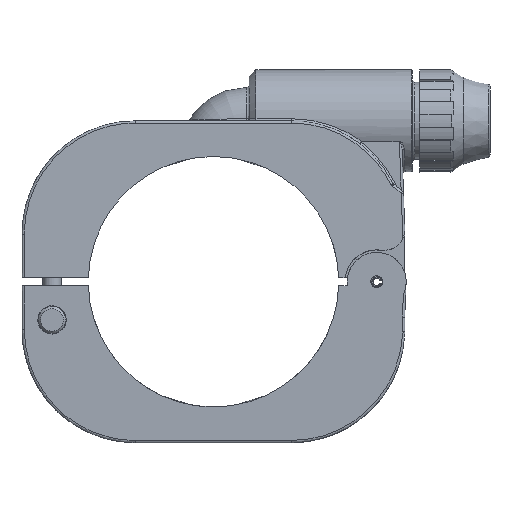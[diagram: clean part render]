
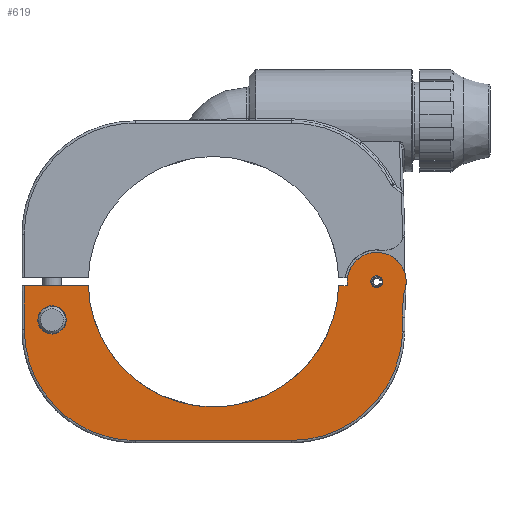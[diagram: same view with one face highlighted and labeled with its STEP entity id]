
A CAD part, left-side view. The second image highlights one B-rep face of the part: STEP entity #619.
In plain terms, the highlighted planar face has unit normal (-1, 0, -0.018).
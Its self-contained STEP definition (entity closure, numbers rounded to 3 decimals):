
#619 = ADVANCED_FACE( '', ( #1395, #1396, #1397 ), #1398, .T. );
#1395 = FACE_BOUND( '', #4152, .T. );
#1396 = FACE_OUTER_BOUND( '', #4153, .T. );
#1397 = FACE_BOUND( '', #4154, .T. );
#1398 = PLANE( '', #4155 );
#4152 = EDGE_LOOP( '', ( #8540 ) );
#4153 = EDGE_LOOP( '', ( #8541, #8542, #8543, #8544, #8545, #8546, #8547, #8548, #8549, #8550, #8551, #8552 ) );
#4154 = EDGE_LOOP( '', ( #8553 ) );
#4155 = AXIS2_PLACEMENT_3D( '', #8554, #8555, #8556 );
#8540 = ORIENTED_EDGE( '', *, *, #10552, .T. );
#8541 = ORIENTED_EDGE( '', *, *, #10553, .T. );
#8542 = ORIENTED_EDGE( '', *, *, #10141, .F. );
#8543 = ORIENTED_EDGE( '', *, *, #10182, .F. );
#8544 = ORIENTED_EDGE( '', *, *, #10554, .T. );
#8545 = ORIENTED_EDGE( '', *, *, #10507, .T. );
#8546 = ORIENTED_EDGE( '', *, *, #10194, .T. );
#8547 = ORIENTED_EDGE( '', *, *, #10555, .T. );
#8548 = ORIENTED_EDGE( '', *, *, #10395, .T. );
#8549 = ORIENTED_EDGE( '', *, *, #10556, .T. );
#8550 = ORIENTED_EDGE( '', *, *, #10557, .T. );
#8551 = ORIENTED_EDGE( '', *, *, #10558, .T. );
#8552 = ORIENTED_EDGE( '', *, *, #10559, .T. );
#8553 = ORIENTED_EDGE( '', *, *, #10345, .T. );
#8554 = CARTESIAN_POINT( '', ( -31.5, 0., 71. ) );
#8555 = DIRECTION( '', ( -1., 0., -0.017 ) );
#8556 = DIRECTION( '', ( -0.017, 0., 1. ) );
#10141 = EDGE_CURVE( '', #11241, #11244, #11245, .F. );
#10182 = EDGE_CURVE( '', #11310, #11241, #11313, .T. );
#10194 = EDGE_CURVE( '', #11332, #11330, #11333, .F. );
#10345 = EDGE_CURVE( '', #11585, #11585, #11586, .F. );
#10395 = EDGE_CURVE( '', #11655, #11659, #11661, .T. );
#10507 = EDGE_CURVE( '', #11826, #11332, #11827, .T. );
#10552 = EDGE_CURVE( '', #11890, #11890, #11891, .F. );
#10553 = EDGE_CURVE( '', #11892, #11244, #11893, .T. );
#10554 = EDGE_CURVE( '', #11310, #11826, #11894, .F. );
#10555 = EDGE_CURVE( '', #11330, #11655, #11895, .T. );
#10556 = EDGE_CURVE( '', #11659, #11896, #11897, .T. );
#10557 = EDGE_CURVE( '', #11896, #11898, #11899, .T. );
#10558 = EDGE_CURVE( '', #11898, #11900, #11901, .T. );
#10559 = EDGE_CURVE( '', #11900, #11892, #11902, .T. );
#11241 = VERTEX_POINT( '', #12932 );
#11244 = VERTEX_POINT( '', #12936 );
#11245 = ELLIPSE( '', #12937, 13.002, 13. );
#11310 = VERTEX_POINT( '', #13124 );
#11313 = LINE( '', #13128, #13129 );
#11330 = VERTEX_POINT( '', #13149 );
#11332 = VERTEX_POINT( '', #13152 );
#11333 = ELLIPSE( '', #13153, 55.258, 55.25 );
#11585 = VERTEX_POINT( '', #14295 );
#11586 = ELLIPSE( '', #14296, 6.251, 6.25 );
#11655 = VERTEX_POINT( '', #14437 );
#11659 = VERTEX_POINT( '', #14442 );
#11661 = LINE( '', #14444, #14445 );
#11826 = VERTEX_POINT( '', #15100 );
#11827 = LINE( '', #15101, #15102 );
#11890 = VERTEX_POINT( '', #15269 );
#11891 = ELLIPSE( '', #15270, 2.65, 2.65 );
#11892 = VERTEX_POINT( '', #15271 );
#11893 = LINE( '', #15272, #15273 );
#11894 = ( BOUNDED_CURVE(  )B_SPLINE_CURVE( 3, ( #15276, #15277, #15278, #15279 ), .UNSPECIFIED., .F., .F. )B_SPLINE_CURVE_WITH_KNOTS( ( 4, 4 ), ( 0.677, 0.677 ), .UNSPECIFIED. )CURVE(  )GEOMETRIC_REPRESENTATION_ITEM(  )RATIONAL_B_SPLINE_CURVE( ( 0.631, 0.631, 0.631, 0.631 ) )REPRESENTATION_ITEM( '' ) );
#11895 = LINE( '', #15285, #15286 );
#11896 = VERTEX_POINT( '', #15287 );
#11897 = ELLIPSE( '', #15288, 49.007, 49. );
#11898 = VERTEX_POINT( '', #15289 );
#11899 = LINE( '', #15290, #15291 );
#11900 = VERTEX_POINT( '', #15292 );
#11901 = ELLIPSE( '', #15293, 49.007, 49. );
#11902 = LINE( '', #15294, #15295 );
#12932 = CARTESIAN_POINT( '', ( -31.469, -59.133, 69.243 ) );
#12936 = CARTESIAN_POINT( '', ( -31.402, -83.757, 65.392 ) );
#12937 = AXIS2_PLACEMENT_3D( '', #17318, #17319, #17320 );
#13124 = CARTESIAN_POINT( '', ( -31.469, -57.584, 69.243 ) );
#13128 = CARTESIAN_POINT( '', ( -31.469, -58.969, 69.243 ) );
#13129 = VECTOR( '', #17368, 1000. );
#13149 = CARTESIAN_POINT( '', ( -31.469, 55.222, 69.243 ) );
#13152 = CARTESIAN_POINT( '', ( -31.469, -55.222, 69.243 ) );
#13153 = AXIS2_PLACEMENT_3D( '', #17385, #17386, #17387 );
#14295 = CARTESIAN_POINT( '', ( -31.097, 71.228, 47.929 ) );
#14296 = AXIS2_PLACEMENT_3D( '', #17597, #17598, #17599 );
#14437 = CARTESIAN_POINT( '', ( -31.469, 83.478, 69.243 ) );
#14442 = CARTESIAN_POINT( '', ( -31.133, 83.478, 49.983 ) );
#14444 = CARTESIAN_POINT( '', ( -31.133, 83.478, 50. ) );
#14445 = VECTOR( '', #17660, 1000. );
#15100 = CARTESIAN_POINT( '', ( -31.469, -57.584, 69.243 ) );
#15101 = CARTESIAN_POINT( '', ( -31.469, -84.385, 69.243 ) );
#15102 = VECTOR( '', #17762, 1000. );
#15269 = CARTESIAN_POINT( '', ( -31.546, -72.017, 73.624 ) );
#15270 = AXIS2_PLACEMENT_3D( '', #17806, #17807, #17808 );
#15271 = CARTESIAN_POINT( '', ( -31.228, -83.385, 55.433 ) );
#15272 = CARTESIAN_POINT( '', ( -31.47, -83.902, 69.28 ) );
#15273 = VECTOR( '', #17809, 1000. );
#15276 = CARTESIAN_POINT( '', ( -31.469, -57.584, 69.243 ) );
#15277 = CARTESIAN_POINT( '', ( -31.469, -57.584, 69.243 ) );
#15278 = CARTESIAN_POINT( '', ( -31.469, -57.584, 69.243 ) );
#15279 = CARTESIAN_POINT( '', ( -31.469, -57.584, 69.243 ) );
#15285 = CARTESIAN_POINT( '', ( -31.469, 44.743, 69.243 ) );
#15286 = VECTOR( '', #17810, 1000. );
#15287 = CARTESIAN_POINT( '', ( -30.278, 34.478, 0.983 ) );
#15288 = AXIS2_PLACEMENT_3D( '', #17811, #17812, #17813 );
#15289 = CARTESIAN_POINT( '', ( -30.278, -34.399, 0.983 ) );
#15290 = CARTESIAN_POINT( '', ( -30.278, -34.399, 0.983 ) );
#15291 = VECTOR( '', #17814, 1000. );
#15292 = CARTESIAN_POINT( '', ( -31.113, -83.385, 48.836 ) );
#15293 = AXIS2_PLACEMENT_3D( '', #17815, #17816, #17817 );
#15294 = CARTESIAN_POINT( '', ( -31.228, -83.385, 55.432 ) );
#15295 = VECTOR( '', #17818, 1000. );
#17318 = CARTESIAN_POINT( '', ( -31.5, -72.017, 70.974 ) );
#17319 = DIRECTION( '', ( -1., 0., -0.017 ) );
#17320 = DIRECTION( '', ( 0.017, 0., -1. ) );
#17368 = DIRECTION( '', ( 0., -1., 0. ) );
#17385 = CARTESIAN_POINT( '', ( -31.5, 0., 71. ) );
#17386 = DIRECTION( '', ( -1., 0., -0.017 ) );
#17387 = DIRECTION( '', ( -0.017, 0., 1. ) );
#17597 = CARTESIAN_POINT( '', ( -31.206, 71.228, 54.179 ) );
#17598 = DIRECTION( '', ( -1., 0., -0.017 ) );
#17599 = DIRECTION( '', ( 0.017, 0., -1. ) );
#17660 = DIRECTION( '', ( 0.017, 0., -1. ) );
#17762 = DIRECTION( '', ( 0., 1., 0. ) );
#17806 = CARTESIAN_POINT( '', ( -31.5, -72.017, 70.974 ) );
#17807 = DIRECTION( '', ( -1., 0., -0.017 ) );
#17808 = DIRECTION( '', ( -0.017, 0., 1. ) );
#17809 = DIRECTION( '', ( -0.017, -0.037, 0.999 ) );
#17810 = DIRECTION( '', ( 0., 1., 0. ) );
#17811 = CARTESIAN_POINT( '', ( -31.133, 34.478, 49.983 ) );
#17812 = DIRECTION( '', ( -1., 0., -0.017 ) );
#17813 = DIRECTION( '', ( -0.017, 0., 1. ) );
#17814 = DIRECTION( '', ( 0., -1., 0. ) );
#17815 = CARTESIAN_POINT( '', ( -31.133, -34.399, 49.983 ) );
#17816 = DIRECTION( '', ( -1., 0., -0.017 ) );
#17817 = DIRECTION( '', ( -0.017, 0., 1. ) );
#17818 = DIRECTION( '', ( -0.017, 0., 1. ) );
